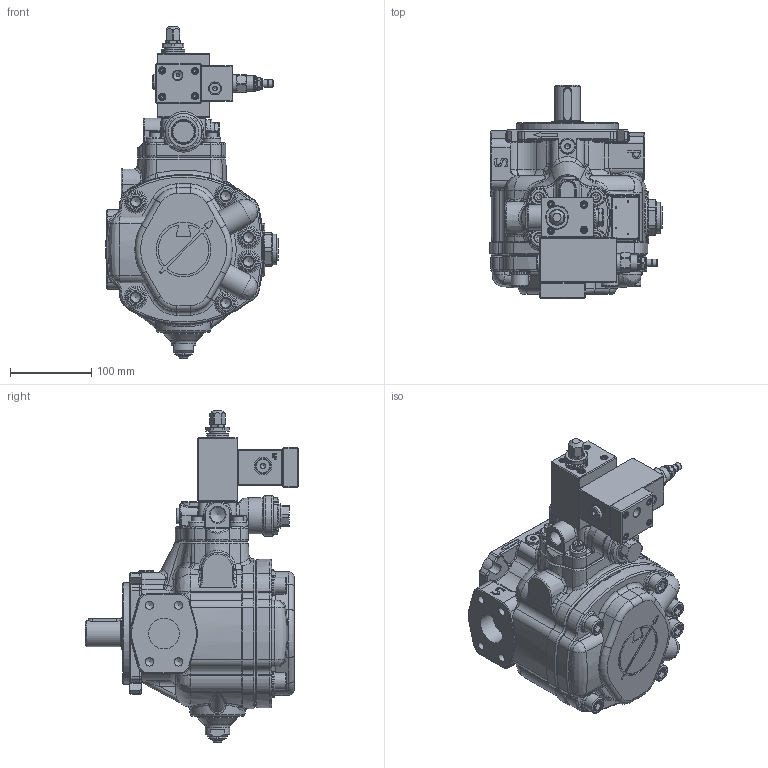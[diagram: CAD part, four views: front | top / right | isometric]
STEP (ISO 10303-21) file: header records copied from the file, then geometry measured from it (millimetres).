
FILE_DESCRIPTION(/* description */ (''),/* implementation_level */ '2;1');
FILE_NAME(/* name */ 'C:\Users\marcop\Desktop\01 PHPK 2 FHRM PCS002.stp',/* time_stamp */ '2019-11-21T11:06:56+01:00',/* author */ ('marcop'),/* organization */ (''),/* preprocessor_version */ 'ST-DEVELOPER v17',/* originating_system */ 'Autodesk Inventor 2018',/* authorisation */ '');
FILE_SCHEMA (('AUTOMOTIVE_DESIGN { 1 0 10303 214 3 1 1 }'));
Products named in the file (1): PLP - PHP 2_Shrinkwrap_1
Bounding box: 212.17 x 263 x 409.1 mm (x, y, z)
Volume: 6251460.8 mm3; surface area: 359959.3 mm2
Topology: 1 solids, 1 shells, 2347 faces, 6034 edges, 3762 vertices
Faces by surface type: plane 951, cylinder 516, bspline 358, cone 268, torus 220, sphere 34
Full cylindrical faces by diameter (mm): 1.7 x4, 2.5 x3, 4 x2, 6 x2, 6.5 x1, 7.2 x1, 7.671 x2, 8.376 x4, 8.5 x8, 9 x4, 9.347 x2, 9.5 x5, 10 x1, 10.106 x4, 11.445 x2, 12 x3, 13 x4, 13.487 x1, 13.5 x1, 13.767 x2, 14 x2, 14.63 x1, 15.5 x1, 16 x2, 17.399 x1, 17.5 x1, 17.78 x1, 18.631 x1, 18.974 x2, 19 x5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
Entity records: 85352 total; most frequent: CARTESIAN_POINT 28492, ORIENTED_EDGE 11938, DIRECTION 10867, EDGE_CURVE 5969, AXIS2_PLACEMENT_3D 4198, VERTEX_POINT 3762, EDGE_LOOP 2494, LINE 2471
